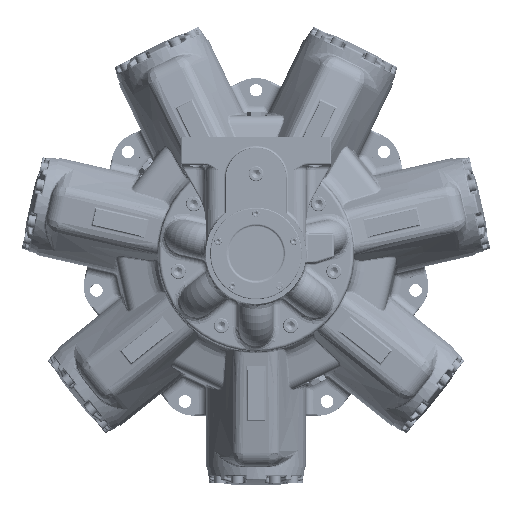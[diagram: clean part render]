
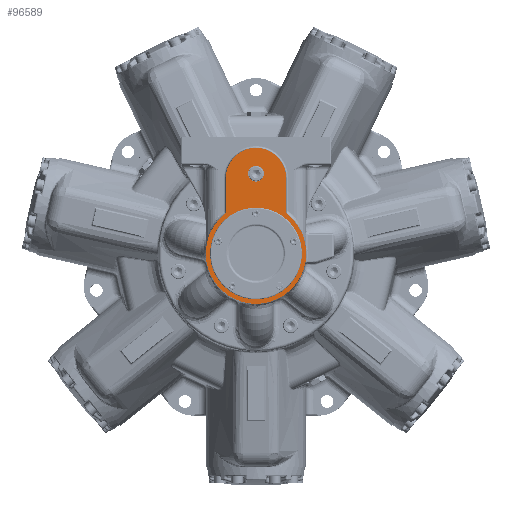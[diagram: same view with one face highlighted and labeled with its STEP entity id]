
A CAD part, top view. The second image highlights one B-rep face of the part: STEP entity #96589.
In plain terms, the highlighted planar face has unit normal (0, 0, 1).
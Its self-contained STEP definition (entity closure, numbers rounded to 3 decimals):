
#1972=FACE_BOUND('',#20458,.T.);
#1973=FACE_BOUND('',#20459,.T.);
#2290=PLANE('',#102756);
#4036=LINE('',#137028,#8519);
#4037=LINE('',#137032,#8520);
#8519=VECTOR('',#111024,10.);
#8520=VECTOR('',#111027,10.);
#14339=FACE_OUTER_BOUND('',#20457,.T.);
#20457=EDGE_LOOP('',(#59129,#59130,#59131,#59132,#59133,#59134));
#20458=EDGE_LOOP('',(#59135));
#20459=EDGE_LOOP('',(#59136));
#26911=CIRCLE('',#102757,48.101);
#26912=CIRCLE('',#102758,80.);
#26913=CIRCLE('',#102759,73.025);
#26914=CIRCLE('',#102760,12.7);
#30778=B_SPLINE_CURVE_WITH_KNOTS('',3,(#136996,#136997,#136998,#136999,
#137000,#137001,#137002,#137003,#137004,#137005,#137006,#137007,#137008,
#137009,#137010,#137011,#137012,#137013,#137014,#137015,#137016,#137017,
#137018,#137019,#137020,#137021,#137022,#137023,#137024,#137025,#137026),
 .UNSPECIFIED.,.F.,.F.,(4,3,3,3,3,3,3,3,3,3,4),(-0.273,-0.243,
-0.213,-0.195,-0.165,-0.134,
-0.117,-0.087,-0.056,-0.026,
0.),.UNSPECIFIED.);
#30779=B_SPLINE_CURVE_WITH_KNOTS('',3,(#137034,#137035,#137036,#137037,
#137038,#137039,#137040,#137041,#137042,#137043,#137044,#137045,#137046,
#137047,#137048,#137049,#137050,#137051,#137052,#137053,#137054,#137055,
#137056,#137057,#137058,#137059,#137060,#137061,#137062,#137063,#137064),
 .UNSPECIFIED.,.F.,.F.,(4,3,3,3,3,3,3,3,3,3,4),(-0.273,-0.243,
-0.213,-0.195,-0.165,-0.134,
-0.117,-0.087,-0.056,-0.026,
0.),.UNSPECIFIED.);
#35791=VERTEX_POINT('',#136994);
#35792=VERTEX_POINT('',#136995);
#35793=VERTEX_POINT('',#137027);
#35794=VERTEX_POINT('',#137029);
#35795=VERTEX_POINT('',#137031);
#35796=VERTEX_POINT('',#137033);
#35797=VERTEX_POINT('',#137066);
#35798=VERTEX_POINT('',#137068);
#44550=EDGE_CURVE('',#35791,#35792,#30778,.T.);
#44551=EDGE_CURVE('',#35793,#35791,#4036,.T.);
#44552=EDGE_CURVE('',#35794,#35793,#26911,.T.);
#44553=EDGE_CURVE('',#35795,#35794,#4037,.T.);
#44554=EDGE_CURVE('',#35796,#35795,#30779,.T.);
#44555=EDGE_CURVE('',#35792,#35796,#26912,.T.);
#44556=EDGE_CURVE('',#35797,#35797,#26913,.T.);
#44557=EDGE_CURVE('',#35798,#35798,#26914,.T.);
#59129=ORIENTED_EDGE('',*,*,#44550,.F.);
#59130=ORIENTED_EDGE('',*,*,#44551,.F.);
#59131=ORIENTED_EDGE('',*,*,#44552,.F.);
#59132=ORIENTED_EDGE('',*,*,#44553,.F.);
#59133=ORIENTED_EDGE('',*,*,#44554,.F.);
#59134=ORIENTED_EDGE('',*,*,#44555,.F.);
#59135=ORIENTED_EDGE('',*,*,#44556,.F.);
#59136=ORIENTED_EDGE('',*,*,#44557,.T.);
#96589=ADVANCED_FACE('',(#14339,#1972,#1973),#2290,.F.);
#102756=AXIS2_PLACEMENT_3D('',#136993,#111022,#111023);
#102757=AXIS2_PLACEMENT_3D('',#137030,#111025,#111026);
#102758=AXIS2_PLACEMENT_3D('',#137065,#111028,#111029);
#102759=AXIS2_PLACEMENT_3D('',#137067,#111030,#111031);
#102760=AXIS2_PLACEMENT_3D('',#137069,#111032,#111033);
#111022=DIRECTION('center_axis',(0.,0.,-1.));
#111023=DIRECTION('ref_axis',(0.,-1.,0.));
#111024=DIRECTION('',(0.,-1.,0.));
#111025=DIRECTION('center_axis',(0.,0.,-1.));
#111026=DIRECTION('ref_axis',(1.,0.,0.));
#111027=DIRECTION('',(0.,1.,0.));
#111028=DIRECTION('center_axis',(0.,0.,-1.));
#111029=DIRECTION('ref_axis',(0.,-1.,0.));
#111030=DIRECTION('center_axis',(0.,0.,
1.));
#111031=DIRECTION('ref_axis',(-0.588,-0.809,0.));
#111032=DIRECTION('center_axis',(0.,0.,-1.));
#111033=DIRECTION('ref_axis',(-1.,0.,0.));
#136993=CARTESIAN_POINT('Origin',(0.,-51.657,449.706));
#136994=CARTESIAN_POINT('',(48.101,65.405,449.706));
#136995=CARTESIAN_POINT('',(49.256,63.039,449.706));
#136996=CARTESIAN_POINT('Ctrl Pts',(48.101,65.405,449.706));
#136997=CARTESIAN_POINT('Ctrl Pts',(48.101,65.306,449.706));
#136998=CARTESIAN_POINT('Ctrl Pts',(48.106,65.207,449.706));
#136999=CARTESIAN_POINT('Ctrl Pts',(48.117,65.108,449.706));
#137000=CARTESIAN_POINT('Ctrl Pts',(48.127,65.008,449.706));
#137001=CARTESIAN_POINT('Ctrl Pts',(48.143,64.908,449.706));
#137002=CARTESIAN_POINT('Ctrl Pts',(48.164,64.809,449.706));
#137003=CARTESIAN_POINT('Ctrl Pts',(48.176,64.751,449.706));
#137004=CARTESIAN_POINT('Ctrl Pts',(48.189,64.694,449.706));
#137005=CARTESIAN_POINT('Ctrl Pts',(48.205,64.638,449.706));
#137006=CARTESIAN_POINT('Ctrl Pts',(48.231,64.54,449.706));
#137007=CARTESIAN_POINT('Ctrl Pts',(48.262,64.443,449.706));
#137008=CARTESIAN_POINT('Ctrl Pts',(48.298,64.349,449.706));
#137009=CARTESIAN_POINT('Ctrl Pts',(48.335,64.254,449.706));
#137010=CARTESIAN_POINT('Ctrl Pts',(48.375,64.16,449.706));
#137011=CARTESIAN_POINT('Ctrl Pts',(48.421,64.069,449.706));
#137012=CARTESIAN_POINT('Ctrl Pts',(48.446,64.019,449.706));
#137013=CARTESIAN_POINT('Ctrl Pts',(48.472,63.969,449.706));
#137014=CARTESIAN_POINT('Ctrl Pts',(48.5,63.921,449.706));
#137015=CARTESIAN_POINT('Ctrl Pts',(48.55,63.832,449.706));
#137016=CARTESIAN_POINT('Ctrl Pts',(48.605,63.745,449.706));
#137017=CARTESIAN_POINT('Ctrl Pts',(48.664,63.662,449.706));
#137018=CARTESIAN_POINT('Ctrl Pts',(48.722,63.579,449.706));
#137019=CARTESIAN_POINT('Ctrl Pts',(48.785,63.5,449.706));
#137020=CARTESIAN_POINT('Ctrl Pts',(48.851,63.423,449.706));
#137021=CARTESIAN_POINT('Ctrl Pts',(48.916,63.349,449.706));
#137022=CARTESIAN_POINT('Ctrl Pts',(48.985,63.277,449.706));
#137023=CARTESIAN_POINT('Ctrl Pts',(49.057,63.21,449.706));
#137024=CARTESIAN_POINT('Ctrl Pts',(49.12,63.15,449.706));
#137025=CARTESIAN_POINT('Ctrl Pts',(49.187,63.093,449.706));
#137026=CARTESIAN_POINT('Ctrl Pts',(49.256,63.039,449.706));
#137027=CARTESIAN_POINT('',(48.101,120.,449.706));
#137028=CARTESIAN_POINT('',(48.101,6.171,449.706));
#137029=CARTESIAN_POINT('',(-48.101,120.,449.706));
#137030=CARTESIAN_POINT('Origin',(0.,120.,449.706));
#137031=CARTESIAN_POINT('',(-48.101,65.405,449.706));
#137032=CARTESIAN_POINT('',(-48.101,34.171,449.706));
#137033=CARTESIAN_POINT('',(-49.256,63.039,449.706));
#137034=CARTESIAN_POINT('Ctrl Pts',(-49.256,63.039,
449.706));
#137035=CARTESIAN_POINT('Ctrl Pts',(-49.178,63.1,
449.706));
#137036=CARTESIAN_POINT('Ctrl Pts',(-49.103,63.165,
449.706));
#137037=CARTESIAN_POINT('Ctrl Pts',(-49.031,63.234,449.706));
#137038=CARTESIAN_POINT('Ctrl Pts',(-48.958,63.304,
449.706));
#137039=CARTESIAN_POINT('Ctrl Pts',(-48.889,63.378,
449.706));
#137040=CARTESIAN_POINT('Ctrl Pts',(-48.824,63.456,
449.706));
#137041=CARTESIAN_POINT('Ctrl Pts',(-48.786,63.5,449.706));
#137042=CARTESIAN_POINT('Ctrl Pts',(-48.749,63.546,
449.706));
#137043=CARTESIAN_POINT('Ctrl Pts',(-48.714,63.593,
449.706));
#137044=CARTESIAN_POINT('Ctrl Pts',(-48.653,63.674,
449.706));
#137045=CARTESIAN_POINT('Ctrl Pts',(-48.596,63.759,
449.706));
#137046=CARTESIAN_POINT('Ctrl Pts',(-48.544,63.845,
449.706));
#137047=CARTESIAN_POINT('Ctrl Pts',(-48.491,63.932,
449.706));
#137048=CARTESIAN_POINT('Ctrl Pts',(-48.443,64.022,
449.706));
#137049=CARTESIAN_POINT('Ctrl Pts',(-48.399,64.114,
449.706));
#137050=CARTESIAN_POINT('Ctrl Pts',(-48.375,64.165,449.706));
#137051=CARTESIAN_POINT('Ctrl Pts',(-48.352,64.216,
449.706));
#137052=CARTESIAN_POINT('Ctrl Pts',(-48.33,64.268,
449.706));
#137053=CARTESIAN_POINT('Ctrl Pts',(-48.291,64.363,449.706));
#137054=CARTESIAN_POINT('Ctrl Pts',(-48.257,64.459,
449.706));
#137055=CARTESIAN_POINT('Ctrl Pts',(-48.228,64.556,
449.706));
#137056=CARTESIAN_POINT('Ctrl Pts',(-48.199,64.654,
449.706));
#137057=CARTESIAN_POINT('Ctrl Pts',(-48.174,64.752,449.706));
#137058=CARTESIAN_POINT('Ctrl Pts',(-48.155,64.851,449.706));
#137059=CARTESIAN_POINT('Ctrl Pts',(-48.136,64.948,449.706));
#137060=CARTESIAN_POINT('Ctrl Pts',(-48.122,65.046,
449.706));
#137061=CARTESIAN_POINT('Ctrl Pts',(-48.113,65.144,
449.706));
#137062=CARTESIAN_POINT('Ctrl Pts',(-48.105,65.231,
449.706));
#137063=CARTESIAN_POINT('Ctrl Pts',(-48.101,65.318,
449.706));
#137064=CARTESIAN_POINT('Ctrl Pts',(-48.101,65.405,
449.706));
#137065=CARTESIAN_POINT('Origin',(0.,0.,449.706));
#137066=CARTESIAN_POINT('',(42.923,59.078,449.706));
#137067=CARTESIAN_POINT('Origin',(0.,0.,
449.706));
#137068=CARTESIAN_POINT('',(12.7,127.,449.706));
#137069=CARTESIAN_POINT('Origin',(0.,127.,449.706));
